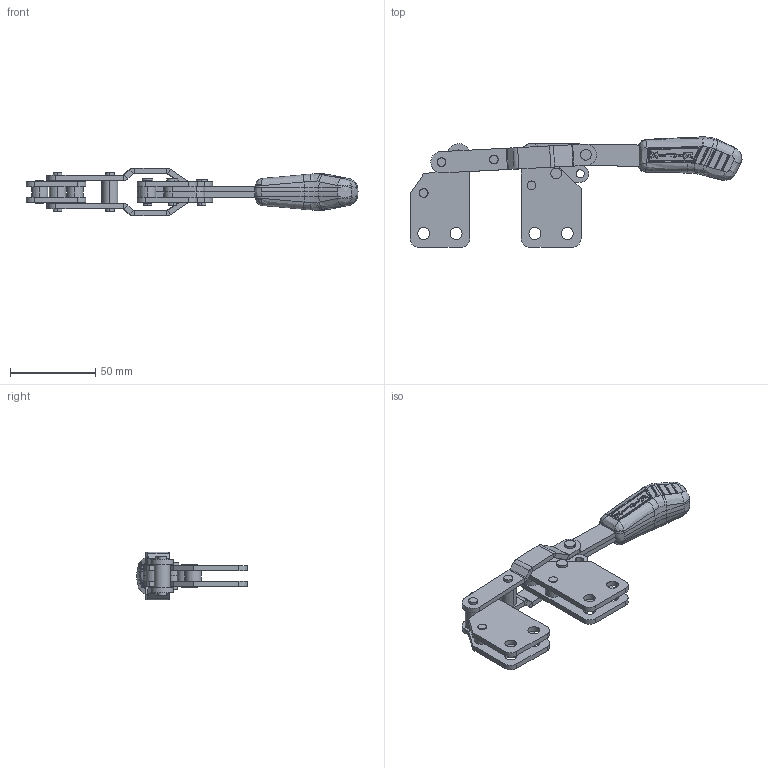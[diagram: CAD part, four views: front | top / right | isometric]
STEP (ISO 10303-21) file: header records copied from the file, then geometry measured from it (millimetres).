
FILE_DESCRIPTION (( 'STEP AP203' ), '1' );
FILE_NAME ('KF-310 R.STEP', '2014-08-22T16:47:34', ( 'Ricardo' ), ( '' ), 'SwSTEP 2.0', 'SolidWorks 2013', '' );
FILE_SCHEMA (( 'CONFIG_CONTROL_DESIGN' ));
Length unit declared in the file: millimetre
Products named in the file (10): 04.10008; 16.20046; 06.50004; 07.60005; 02.11045_Direita; KF-310 R; 02.11046_Direita; 01.10071; 03.10007; 16.20045
Assembly tree (19 placements, depth 2):
  KF-310 R
    02.11045_Direita  x2
    02.11046_Direita  x2
    01.10071  x2
    03.10007  x2
    16.20045  x2
    04.10008  x2
    16.20046  x3
    06.50004  x3
    07.60005
Bounding box: 194.57 x 64.67 x 28 mm (x, y, z)
Volume: 57428.2 mm3; surface area: 40765.6 mm2
Topology: 19 solids, 19 shells, 912 faces, 2276 edges, 1426 vertices
Faces by surface type: cylinder 330, bspline 269, plane 253, sphere 50, cone 8, torus 2
Entity records: 30738 total; most frequent: CARTESIAN_POINT 13697, ORIENTED_EDGE 3826, DIRECTION 2538, EDGE_CURVE 1913, VERTEX_POINT 1202, AXIS2_PLACEMENT_3D 951, EDGE_LOOP 811, ADVANCED_FACE 753
